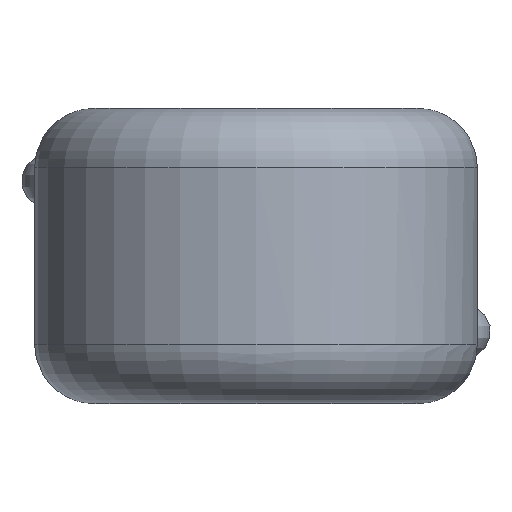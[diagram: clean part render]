
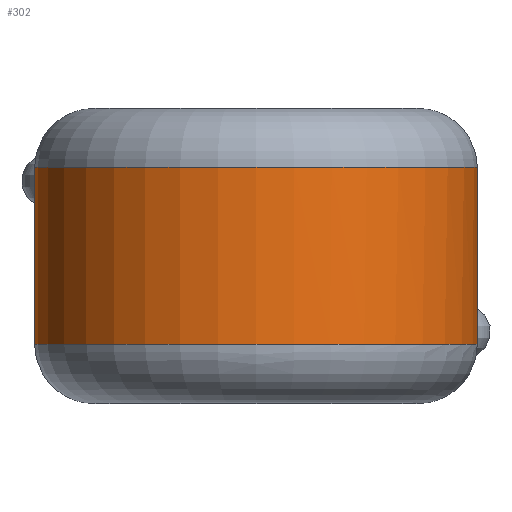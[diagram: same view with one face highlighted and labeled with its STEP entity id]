
A CAD part, top view. The second image highlights one B-rep face of the part: STEP entity #302.
In plain terms, the highlighted cylindrical face has radius 3.75 mm (diameter 7.5 mm), a full revolution.
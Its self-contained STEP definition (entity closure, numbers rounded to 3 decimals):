
#24=B_SPLINE_CURVE_WITH_KNOTS('',3,(#1019,#1020,#1021,#1022,#1023,#1024,
#1025,#1026,#1027,#1028),.UNSPECIFIED.,.F.,.F.,(4,1,1,1,1,1,1,4),(-0.227,
-0.195,-0.162,-0.13,-0.097,
-0.049,-0.032,0.),.UNSPECIFIED.);
#26=B_SPLINE_CURVE_WITH_KNOTS('',3,(#1090,#1091,#1092,#1093,#1094,#1095,
#1096,#1097,#1098,#1099),.UNSPECIFIED.,.F.,.F.,(4,1,1,1,1,1,1,4),(-0.227,
-0.195,-0.162,-0.13,-0.097,
-0.049,-0.032,0.),.UNSPECIFIED.);
#72=FACE_OUTER_BOUND('',#92,.T.);
#92=EDGE_LOOP('',(#241,#242,#243,#244,#245,#246,#247,#248,#249,#250));
#105=LINE('',#1084,#108);
#108=VECTOR('',#407,3.75);
#120=CIRCLE('',#347,3.75);
#121=CIRCLE('',#348,3.75);
#122=CIRCLE('',#349,3.75);
#123=CIRCLE('',#351,3.75);
#124=CIRCLE('',#352,3.75);
#125=CIRCLE('',#353,3.75);
#143=VERTEX_POINT('',#1015);
#144=VERTEX_POINT('',#1017);
#147=VERTEX_POINT('',#1076);
#148=VERTEX_POINT('',#1079);
#149=VERTEX_POINT('',#1083);
#150=VERTEX_POINT('',#1085);
#151=VERTEX_POINT('',#1087);
#152=VERTEX_POINT('',#1089);
#176=EDGE_CURVE('',#143,#144,#24,.T.);
#181=EDGE_CURVE('',#144,#147,#120,.T.);
#182=EDGE_CURVE('',#148,#143,#121,.T.);
#183=EDGE_CURVE('',#147,#148,#122,.T.);
#184=EDGE_CURVE('',#148,#149,#105,.T.);
#185=EDGE_CURVE('',#149,#150,#123,.T.);
#186=EDGE_CURVE('',#150,#151,#124,.T.);
#187=EDGE_CURVE('',#151,#152,#26,.T.);
#188=EDGE_CURVE('',#152,#149,#125,.T.);
#241=ORIENTED_EDGE('',*,*,#176,.T.);
#242=ORIENTED_EDGE('',*,*,#181,.T.);
#243=ORIENTED_EDGE('',*,*,#183,.T.);
#244=ORIENTED_EDGE('',*,*,#184,.T.);
#245=ORIENTED_EDGE('',*,*,#185,.T.);
#246=ORIENTED_EDGE('',*,*,#186,.T.);
#247=ORIENTED_EDGE('',*,*,#187,.T.);
#248=ORIENTED_EDGE('',*,*,#188,.T.);
#249=ORIENTED_EDGE('',*,*,#184,.F.);
#250=ORIENTED_EDGE('',*,*,#182,.T.);
#292=CYLINDRICAL_SURFACE('',#350,3.75);
#302=ADVANCED_FACE('',(#72),#292,.T.);
#347=AXIS2_PLACEMENT_3D('',#1078,#399,#400);
#348=AXIS2_PLACEMENT_3D('',#1080,#401,#402);
#349=AXIS2_PLACEMENT_3D('',#1081,#403,#404);
#350=AXIS2_PLACEMENT_3D('',#1082,#405,#406);
#351=AXIS2_PLACEMENT_3D('',#1086,#408,#409);
#352=AXIS2_PLACEMENT_3D('',#1088,#410,#411);
#353=AXIS2_PLACEMENT_3D('',#1100,#412,#413);
#399=DIRECTION('center_axis',(0.,-1.,0.));
#400=DIRECTION('ref_axis',(-1.,0.,0.));
#401=DIRECTION('center_axis',(0.,-1.,0.));
#402=DIRECTION('ref_axis',(-1.,0.,0.));
#403=DIRECTION('center_axis',(0.,-1.,0.));
#404=DIRECTION('ref_axis',(-1.,0.,0.));
#405=DIRECTION('center_axis',(0.,-1.,0.));
#406=DIRECTION('ref_axis',(1.,0.,0.));
#407=DIRECTION('',(0.,-1.,0.));
#408=DIRECTION('center_axis',(0.,1.,0.));
#409=DIRECTION('ref_axis',(-1.,0.,0.));
#410=DIRECTION('center_axis',(0.,1.,0.));
#411=DIRECTION('ref_axis',(-1.,0.,0.));
#412=DIRECTION('center_axis',(0.,1.,0.));
#413=DIRECTION('ref_axis',(-1.,0.,0.));
#1015=CARTESIAN_POINT('',(-3.,1.5,-2.249));
#1017=CARTESIAN_POINT('',(-2.275,1.5,-2.981));
#1019=CARTESIAN_POINT('Ctrl Pts',(-3.,1.5,-2.249));
#1020=CARTESIAN_POINT('Ctrl Pts',(-3.025,1.4,-2.216));
#1021=CARTESIAN_POINT('Ctrl Pts',(-3.04,1.177,-2.195));
#1022=CARTESIAN_POINT('Ctrl Pts',(-2.957,0.872,-2.31));
#1023=CARTESIAN_POINT('Ctrl Pts',(-2.78,0.691,-2.524));
#1024=CARTESIAN_POINT('Ctrl Pts',(-2.509,0.69,-2.798));
#1025=CARTESIAN_POINT('Ctrl Pts',(-2.303,0.92,-2.96));
#1026=CARTESIAN_POINT('Ctrl Pts',(-2.227,1.233,-3.017));
#1027=CARTESIAN_POINT('Ctrl Pts',(-2.243,1.4,-3.006));
#1028=CARTESIAN_POINT('Ctrl Pts',(-2.275,1.5,-2.981));
#1076=CARTESIAN_POINT('',(0.,1.5,-3.75));
#1078=CARTESIAN_POINT('Origin',(0.,1.5,0.));
#1079=CARTESIAN_POINT('',(-3.75,1.5,0.));
#1080=CARTESIAN_POINT('Origin',(0.,1.5,0.));
#1081=CARTESIAN_POINT('Origin',(0.,1.5,0.));
#1082=CARTESIAN_POINT('Origin',(0.,0.,0.));
#1083=CARTESIAN_POINT('',(-3.75,-1.5,0.));
#1084=CARTESIAN_POINT('',(-3.75,0.,0.));
#1085=CARTESIAN_POINT('',(0.,-1.5,3.75));
#1086=CARTESIAN_POINT('Origin',(0.,-1.5,0.));
#1087=CARTESIAN_POINT('',(3.,-1.5,-2.249));
#1088=CARTESIAN_POINT('Origin',(0.,-1.5,0.));
#1089=CARTESIAN_POINT('',(2.275,-1.5,-2.981));
#1090=CARTESIAN_POINT('Ctrl Pts',(3.,-1.5,-2.249));
#1091=CARTESIAN_POINT('Ctrl Pts',(3.025,-1.4,-2.216));
#1092=CARTESIAN_POINT('Ctrl Pts',(3.04,-1.177,-2.195));
#1093=CARTESIAN_POINT('Ctrl Pts',(2.957,-0.872,-2.31));
#1094=CARTESIAN_POINT('Ctrl Pts',(2.78,-0.691,-2.524));
#1095=CARTESIAN_POINT('Ctrl Pts',(2.509,-0.69,-2.798));
#1096=CARTESIAN_POINT('Ctrl Pts',(2.303,-0.92,-2.96));
#1097=CARTESIAN_POINT('Ctrl Pts',(2.227,-1.233,-3.017));
#1098=CARTESIAN_POINT('Ctrl Pts',(2.243,-1.4,-3.006));
#1099=CARTESIAN_POINT('Ctrl Pts',(2.275,-1.5,-2.981));
#1100=CARTESIAN_POINT('Origin',(0.,-1.5,0.));
